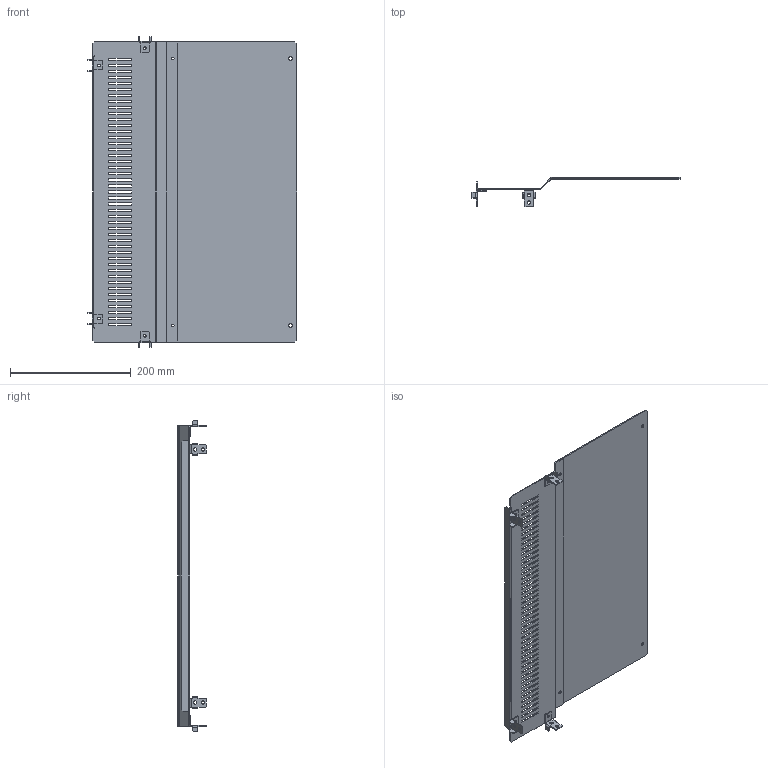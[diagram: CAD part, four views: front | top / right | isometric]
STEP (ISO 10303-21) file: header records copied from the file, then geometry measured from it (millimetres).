
FILE_DESCRIPTION(('CAx-IF Rec.Pracs.---Model Styling and Organization---1.2---2011-12-15','CAx-IF Rec.Pracs.---Geometric and Assembly Validation Properties---4.1---2014-06-16','CAx-IF Rec.Pracs.---PMI Polyline Presentation---2.0---2013-05-24'),'2;1');
FILE_NAME('R5MSBPF63.stp','2021-05-05T13:04:10+03:00',(''),(''),'STEP Interface 4.4 by CT CoreTechnologie','3D_Evolution4.4 by CT CoreTechnologie','');
FILE_SCHEMA(('AUTOMOTIVE_DESIGN { 1 0 10303 214 1 1 1 1 }'));
Length unit declared in the file: millimetre
Products named in the file (4): R5MSBPF63; RB.0521.00.00.0; RB.0873.00.00.0_-00; RB.0874.00.00.0_-00
Assembly tree (6 placements, depth 2):
  R5MSBPF63
    RB.0521.00.00.0  x4
    RB.0873.00.00.0_-00
    RB.0874.00.00.0_-00
Bounding box: 347.5 x 48 x 516 mm (x, y, z)
Surface area: 379033.4 mm2 (no closed solid volume)
Topology: 0 solids, 6 shells, 444 faces, 1236 edges, 804 vertices
Faces by surface type: plane 366, cylinder 78
Entity records: 10287 total; most frequent: CARTESIAN_POINT 1765, ORIENTED_EDGE 1752, DIRECTION 1586, EDGE_CURVE 876, VECTOR 792, LINE 792, VERTEX_POINT 576, EDGE_LOOP 422
